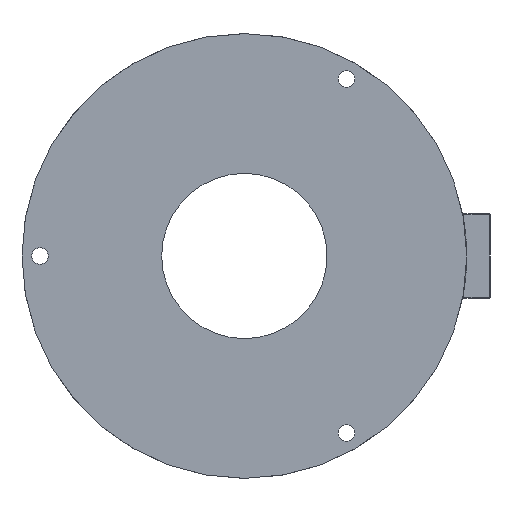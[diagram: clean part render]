
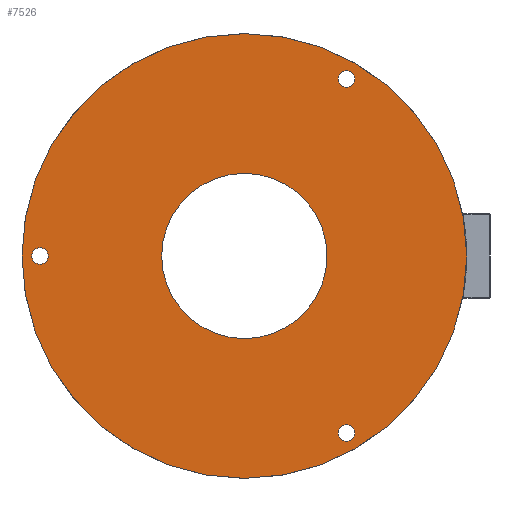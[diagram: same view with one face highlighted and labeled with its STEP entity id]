
A CAD part, left-side view. The second image highlights one B-rep face of the part: STEP entity #7526.
In plain terms, the highlighted planar face has unit normal (-1, 0, 0).
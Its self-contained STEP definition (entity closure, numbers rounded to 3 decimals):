
#165=FACE_BOUND('',#1053,.T.);
#166=FACE_BOUND('',#1054,.T.);
#167=FACE_BOUND('',#1055,.T.);
#168=FACE_BOUND('',#1056,.T.);
#304=PLANE('',#8426);
#608=FACE_OUTER_BOUND('',#1052,.T.);
#1052=EDGE_LOOP('',(#5928,#5929));
#1053=EDGE_LOOP('',(#5930));
#1054=EDGE_LOOP('',(#5931));
#1055=EDGE_LOOP('',(#5932));
#1056=EDGE_LOOP('',(#5933,#5934));
#2433=CIRCLE('',#8427,74.);
#2434=CIRCLE('',#8428,74.);
#2435=CIRCLE('',#8429,2.75);
#2436=CIRCLE('',#8430,2.75);
#2437=CIRCLE('',#8431,2.75);
#2438=CIRCLE('',#8432,27.5);
#2439=CIRCLE('',#8433,27.5);
#3175=VERTEX_POINT('',#13346);
#3176=VERTEX_POINT('',#13347);
#3177=VERTEX_POINT('',#13350);
#3178=VERTEX_POINT('',#13352);
#3179=VERTEX_POINT('',#13354);
#3180=VERTEX_POINT('',#13356);
#3181=VERTEX_POINT('',#13357);
#4143=EDGE_CURVE('',#3175,#3176,#2433,.T.);
#4144=EDGE_CURVE('',#3176,#3175,#2434,.T.);
#4145=EDGE_CURVE('',#3177,#3177,#2435,.T.);
#4146=EDGE_CURVE('',#3178,#3178,#2436,.T.);
#4147=EDGE_CURVE('',#3179,#3179,#2437,.T.);
#4148=EDGE_CURVE('',#3180,#3181,#2438,.T.);
#4149=EDGE_CURVE('',#3181,#3180,#2439,.T.);
#5928=ORIENTED_EDGE('',*,*,#4143,.T.);
#5929=ORIENTED_EDGE('',*,*,#4144,.T.);
#5930=ORIENTED_EDGE('',*,*,#4145,.T.);
#5931=ORIENTED_EDGE('',*,*,#4146,.T.);
#5932=ORIENTED_EDGE('',*,*,#4147,.T.);
#5933=ORIENTED_EDGE('',*,*,#4148,.F.);
#5934=ORIENTED_EDGE('',*,*,#4149,.F.);
#7526=ADVANCED_FACE('',(#608,#165,#166,#167,#168),#304,.T.);
#8426=AXIS2_PLACEMENT_3D('',#13345,#10574,#10575);
#8427=AXIS2_PLACEMENT_3D('',#13348,#10576,#10577);
#8428=AXIS2_PLACEMENT_3D('',#13349,#10578,#10579);
#8429=AXIS2_PLACEMENT_3D('',#13351,#10580,#10581);
#8430=AXIS2_PLACEMENT_3D('',#13353,#10582,#10583);
#8431=AXIS2_PLACEMENT_3D('',#13355,#10584,#10585);
#8432=AXIS2_PLACEMENT_3D('',#13358,#10586,#10587);
#8433=AXIS2_PLACEMENT_3D('',#13359,#10588,#10589);
#10574=DIRECTION('center_axis',(-1.,0.,0.));
#10575=DIRECTION('ref_axis',(0.,0.,
1.));
#10576=DIRECTION('center_axis',(-1.,0.,0.));
#10577=DIRECTION('ref_axis',(0.,1.,0.));
#10578=DIRECTION('center_axis',(-1.,0.,0.));
#10579=DIRECTION('ref_axis',(0.,1.,0.));
#10580=DIRECTION('center_axis',(1.,0.,0.));
#10581=DIRECTION('ref_axis',(0.,0.,
-1.));
#10582=DIRECTION('center_axis',(1.,0.,0.));
#10583=DIRECTION('ref_axis',(0.,0.,
-1.));
#10584=DIRECTION('center_axis',(1.,0.,0.));
#10585=DIRECTION('ref_axis',(0.,0.,
-1.));
#10586=DIRECTION('center_axis',(-1.,0.,0.));
#10587=DIRECTION('ref_axis',(0.,1.,0.));
#10588=DIRECTION('center_axis',(-1.,0.,0.));
#10589=DIRECTION('ref_axis',(0.,1.,0.));
#13345=CARTESIAN_POINT('Origin',(-35.75,50.75,0.));
#13346=CARTESIAN_POINT('',(-35.75,74.,0.));
#13347=CARTESIAN_POINT('',(-35.75,-74.,0.));
#13348=CARTESIAN_POINT('Origin',(-35.75,0.,0.));
#13349=CARTESIAN_POINT('Origin',(-35.75,0.,0.));
#13350=CARTESIAN_POINT('',(-35.75,-34.,61.64));
#13351=CARTESIAN_POINT('Origin',(-35.75,-34.,58.89));
#13352=CARTESIAN_POINT('',(-35.75,68.,2.75));
#13353=CARTESIAN_POINT('Origin',(-35.75,68.,0.));
#13354=CARTESIAN_POINT('',(-35.75,-34.,-56.14));
#13355=CARTESIAN_POINT('Origin',(-35.75,-34.,-58.89));
#13356=CARTESIAN_POINT('',(-35.75,27.5,0.));
#13357=CARTESIAN_POINT('',(-35.75,-27.5,0.));
#13358=CARTESIAN_POINT('Origin',(-35.75,0.,0.));
#13359=CARTESIAN_POINT('Origin',(-35.75,0.,0.));
